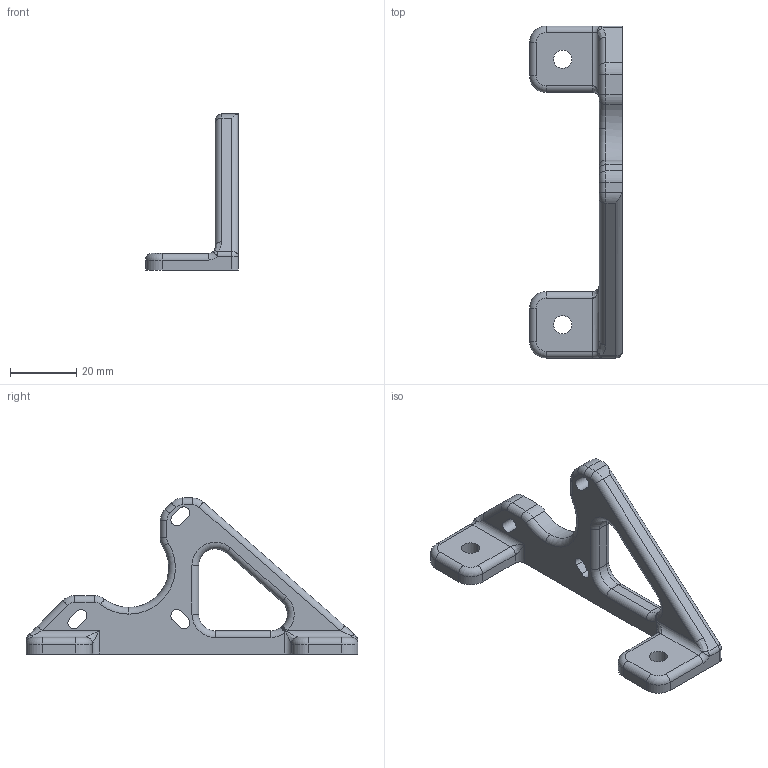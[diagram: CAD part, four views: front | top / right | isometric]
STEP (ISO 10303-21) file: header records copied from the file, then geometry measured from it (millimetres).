
FILE_DESCRIPTION (( 'STEP AP203' ), '1' );
FILE_NAME ('Y MOTOR MOUNT.STEP', '2012-08-20T19:30:42', ( '' ), ( '' ), 'SwSTEP 2.0', 'SolidWorks 2012', '' );
FILE_SCHEMA (( 'CONFIG_CONTROL_DESIGN' ));
Length unit declared in the file: millimetre
Products named in the file (1): Y MOTOR MOUNT
Bounding box: 28 x 100 x 47 mm (x, y, z)
Volume: 16125 mm3; surface area: 8016.6 mm2
Topology: 1 solids, 1 shells, 111 faces, 279 edges, 165 vertices
Faces by surface type: cylinder 53, plane 26, torus 22, bspline 6, sphere 4
Entity records: 3525 total; most frequent: CARTESIAN_POINT 750, DIRECTION 611, ORIENTED_EDGE 550, EDGE_CURVE 275, AXIS2_PLACEMENT_3D 244, VERTEX_POINT 165, CIRCLE 138, VECTOR 123
